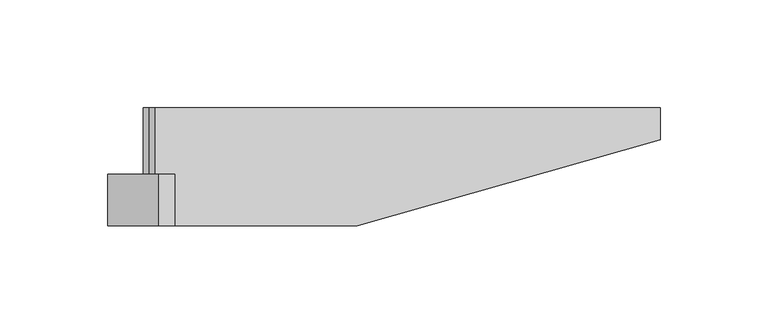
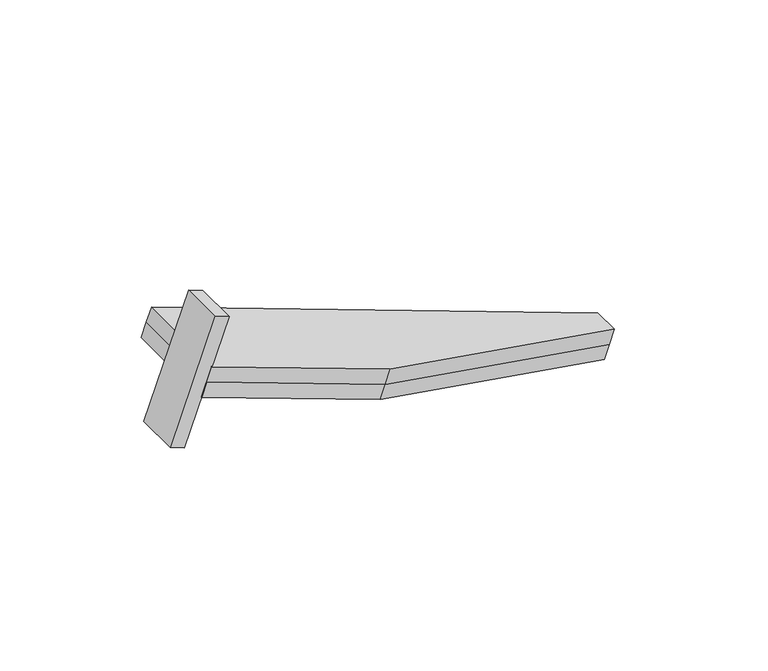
"""IFC4 building model written with IfcOpenShell, lengths in millimetres: proxy geometry, MK-TA24-ZAFE-VA1-WD."""

import ifcopenshell
import ifcopenshell.guid

model = None  # the IFC model being written
_history = None  # IfcOwnerHistory: only IFC2X3 demands one
_inside = {}  # id of a spatial element -> (the spatial element, [elements in it])
_under = {}  # id of a project, library or spatial element -> (it, [spatial elements below it])
_declared = {}  # id of a project -> (the project, [libraries it declares])
_typed = {}  # id of a type object -> (the type object, [elements of that type])
_made_of = {}  # id of a material, layer set ... -> (it, [elements and type objects made of it])


def new_model(schema):
    """Start an empty IFC model of exactly this schema.

    Asked for "IFC4X3", IfcOpenShell would pick the latest addendum, in which some entities
    have other attributes; the version numbers below select the first issue.
    IFC2X3 requires an IfcOwnerHistory on every rooted entity: one is made here for all.
    """
    global model, _history
    if schema == "IFC4X3":
        model = ifcopenshell.file(schema_version=(4, 3, 0, 0))
    else:
        model = ifcopenshell.file(schema=schema)
    _inside.clear()
    _under.clear()
    _declared.clear()
    _typed.clear()
    _made_of.clear()
    _history = None
    if model.schema == "IFC2X3":
        org = make("IfcOrganization", Name="unknown")
        user = make(
            "IfcPersonAndOrganization",
            ThePerson=make("IfcPerson", FamilyName="unknown"),
            TheOrganization=org,
        )
        app = make(
            "IfcApplication",
            ApplicationDeveloper=org,
            Version="unknown",
            ApplicationFullName="unknown",
            ApplicationIdentifier="unknown",
        )
        _history = make(
            "IfcOwnerHistory",
            OwningUser=user,
            OwningApplication=app,
            ChangeAction="ADDED",
            CreationDate=0,
        )
    return model


def make(cls, **values):
    """One entity of the class cls with the attributes given. An attribute that is None is left unset."""
    return model.create_entity(
        cls, **{name: value for name, value in values.items() if value is not None}
    )


def rooted(cls, **values):
    """An entity with a GlobalId (a new one), such as an element, a storey or a relation."""
    return make(cls, GlobalId=ifcopenshell.guid.new(), OwnerHistory=_history, **values)


def si_unit(unit_type, name, prefix=None):
    """IfcSIUnit, for example si_unit("LENGTHUNIT", "METRE", prefix="MILLI")."""
    return make("IfcSIUnit", UnitType=unit_type, Prefix=prefix, Name=name)


def assignment(units):
    """IfcUnitAssignment: the units of a project."""
    return None if units is None else make("IfcUnitAssignment", Units=units)


def point(xyz):
    """IfcCartesianPoint."""
    return None if xyz is None else make("IfcCartesianPoint", Coordinates=xyz)


def direction(xyz):
    """IfcDirection."""
    return None if xyz is None else make("IfcDirection", DirectionRatios=xyz)


def frame(location, z_axis=None, x_axis=None):
    """IfcAxis2Placement3D, a coordinate frame: its origin and axes. An axis left out is left unset."""
    return make(
        "IfcAxis2Placement3D",
        Location=point(location),
        Axis=direction(z_axis),
        RefDirection=direction(x_axis),
    )


def origin():
    """The frame at (0, 0, 0) with its axes left unset."""
    return frame((0.0, 0.0, 0.0))


def place(relative_to, where):
    """IfcLocalPlacement: puts the frame where relative to a parent placement (None: the world)."""
    return make(
        "IfcLocalPlacement", PlacementRelTo=relative_to, RelativePlacement=where
    )


def context(
    kind, dimensions, precision=None, world=None, true_north=None, identifier=None
):
    """IfcGeometricRepresentationContext, for example the 3D "Model" context."""
    return make(
        "IfcGeometricRepresentationContext",
        ContextIdentifier=identifier,
        ContextType=kind,
        CoordinateSpaceDimension=dimensions,
        Precision=precision,
        WorldCoordinateSystem=world,
        TrueNorth=true_north,
    )


def project(units=None, contexts=None):
    """IfcProject with its units and contexts."""
    return rooted(
        "IfcProject",
        Name="project",
        RepresentationContexts=contexts,
        UnitsInContext=assignment(units),
    )


def spatial(cls, under=None, at=None, **own):
    """A site, building, storey or space (cls), placed at a placement, below another one or the project."""
    s = rooted(cls, ObjectPlacement=at, **own)
    if under is not None:
        _under.setdefault(under.id(), (under, []))[1].append(s)
    return s


def polyline(points):
    """IfcPolyline through the points."""
    return make("IfcPolyline", Points=[point(p) for p in points])


def outline(outer, holes=None, kind="AREA"):
    """IfcArbitraryClosedProfileDef: a profile drawn as a closed curve; with holes, ...WithVoids."""
    if holes is None:
        return make("IfcArbitraryClosedProfileDef", ProfileType=kind, OuterCurve=outer)
    return make(
        "IfcArbitraryProfileDefWithVoids",
        ProfileType=kind,
        OuterCurve=outer,
        InnerCurves=holes,
    )


def extrude(swept, where, along, depth):
    """IfcExtrudedAreaSolid: the profile swept, set in the frame where, extruded along a direction by depth."""
    return make(
        "IfcExtrudedAreaSolid",
        SweptArea=swept,
        Position=where,
        ExtrudedDirection=direction(along),
        Depth=depth,
    )


def shape(context_of_items, identifier, shape_type, items):
    """IfcShapeRepresentation: the items that make up one representation, for example the "Body"."""
    return make(
        "IfcShapeRepresentation",
        ContextOfItems=context_of_items,
        RepresentationIdentifier=identifier,
        RepresentationType=shape_type,
        Items=items,
    )


def source(mapping_origin, context_of_items, identifier, shape_type, items):
    """IfcRepresentationMap: a shape defined once, which mapped items show again and again."""
    return make(
        "IfcRepresentationMap",
        MappingOrigin=mapping_origin,
        MappedRepresentation=shape(context_of_items, identifier, shape_type, items),
    )


def transform(
    local_origin,
    x_axis=None,
    y_axis=None,
    z_axis=None,
    scale=None,
    scale2=None,
    scale3=None,
    uniform=True,
):
    """IfcCartesianTransformationOperator3D, or its non-uniform kind. x_axis, y_axis, z_axis: its Axis1, 2, 3."""
    if uniform:
        return make(
            "IfcCartesianTransformationOperator3D",
            Axis1=direction(x_axis),
            Axis2=direction(y_axis),
            LocalOrigin=point(local_origin),
            Scale=scale,
            Axis3=direction(z_axis),
        )
    return make(
        "IfcCartesianTransformationOperator3DnonUniform",
        Axis1=direction(x_axis),
        Axis2=direction(y_axis),
        LocalOrigin=point(local_origin),
        Scale=scale,
        Axis3=direction(z_axis),
        Scale2=scale2,
        Scale3=scale3,
    )


def mapped(mapping_source, mapping_target):
    """IfcMappedItem: shows the shape of a source again, moved by a transform."""
    return make(
        "IfcMappedItem", MappingSource=mapping_source, MappingTarget=mapping_target
    )


def made_of(thing, what):
    """Note that an element or type object is made of a material, layer set ...; save() writes the relation."""
    if what is not None:
        _made_of.setdefault(what.id(), (what, []))[1].append(thing)
    return thing


def element(
    cls,
    number,
    at=None,
    inside=None,
    cuts=None,
    type_object=None,
    material=None,
    context=None,
    identifier="Body",
    shape_type=None,
    held_by="IfcProductDefinitionShape",
    body=None,
    shapes=None,
    **own,
):
    """One element of the class cls, such as IfcWall. Its Tag is "e" and its number.

    at: its placement. inside: the storey or other place that contains it. cuts: it is an
    opening in that element (IfcRelVoidsElement). A single representation is given by context,
    identifier, shape_type and body (its items); several are given by shapes. held_by: the class
    of the entity that holds the representations. save() writes the other relations.
    """
    e = rooted(cls, Tag="e%d" % number, ObjectPlacement=at, **own)
    if body is not None:
        shapes = [shape(context, identifier, shape_type, body)]
    if shapes is not None:
        e.Representation = make(held_by, Representations=shapes)
    if inside is not None:
        _inside.setdefault(inside.id(), (inside, []))[1].append(e)
    if cuts is not None:
        rooted(
            "IfcRelVoidsElement", RelatingBuildingElement=cuts, RelatedOpeningElement=e
        )
    if type_object is not None:
        _typed.setdefault(type_object.id(), (type_object, []))[1].append(e)
    return made_of(e, material)


def aggregate(whole, parts):
    """IfcRelAggregates: a whole, such as a stair, and the parts it consists of."""
    return rooted("IfcRelAggregates", RelatingObject=whole, RelatedObjects=parts)


def save(model, path):
    """Write the relations noted so far, then the file.

    IfcRelAggregates (storeys below a building ...), IfcRelContainedInSpatialStructure (elements
    in a storey), IfcRelDefinesByType, IfcRelAssociatesMaterial and IfcRelDeclares: one each for
    every whole, place, type object, material and project.
    """
    for whole, parts in _under.values():
        aggregate(whole, parts)
    for where, things in _inside.values():
        rooted(
            "IfcRelContainedInSpatialStructure",
            RelatedElements=things,
            RelatingStructure=where,
        )
    for kind, things in _typed.values():
        rooted("IfcRelDefinesByType", RelatedObjects=things, RelatingType=kind)
    for what, things in _made_of.values():
        rooted("IfcRelAssociatesMaterial", RelatedObjects=things, RelatingMaterial=what)
    for by, libraries in _declared.values():
        rooted("IfcRelDeclares", RelatingContext=by, RelatedDefinitions=libraries)
    model.write(path)


def generic_models_d035bedb(model_context):
    return source(origin(), model_context, "Body", "SweptSolid", [
        extrude(outline(polyline([(129.9760168, 25.0919917), (129.9760168, 10.0919917), (-20.0239831, -29.9080083), (-120.0239832, -29.9080083), (-120.0239832, 25.0919917), (129.9760168, 25.0919917)])), frame((-263.4582314, 4.9080083, -15.5489949), z_axis=(0.34202014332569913, 0.0, 0.9396926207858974), x_axis=(0.9396926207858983, 0.0, -0.3420201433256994)), (0.0, 0.0, 1.0), 8.0),
        extrude(outline(polyline([(-120.0239831, -29.9080083), (-120.0239831, 25.0919917), (129.9760169, 25.0919917), (129.9760169, 10.0919917), (-20.0239831, -29.9080083), (-120.0239831, -29.9080083)])), frame((-266.1943926, 4.9080083, -23.0665359), z_axis=(0.34202014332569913, 0.0, 0.9396926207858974), x_axis=(0.9396926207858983, 0.0, -0.3420201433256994)), (0.0, 0.0, 1.0), 8.0),
        extrude(outline(polyline([(0.0, -24.0), (0.0, 0.0), (8.0, 0.0), (8.0, -24.0), (0.0, -24.0)])), frame((-395.5611186, -1.0, -4.1816093), z_axis=(0.34202014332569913, 0.0, 0.9396926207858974), x_axis=(0.9396926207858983, 0.0, -0.3420201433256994)), (0.0, 0.0, 1.0), 69.0),
    ])


if __name__ == "__main__":
    model = new_model("IFC4")
    model_context = context("Model", 3, world=origin())
    ifc_project = project(units=[si_unit("LENGTHUNIT", "METRE", prefix="MILLI")], contexts=[model_context])
    site = spatial("IfcSite", under=ifc_project)
    building = spatial("IfcBuilding", under=site)
    placement = place(None, origin())
    generic_models_shape = generic_models_d035bedb(model_context)
    element("IfcBuildingElementProxy", 1, Name="MK-TA24-ZAFE-VA1-WD", ObjectType="MK-TA24-ZAFE-VA1-WD", at=placement, inside=building, context=model_context, shape_type="MappedRepresentation", body=[
        mapped(generic_models_shape, transform((0.0, 0.0, 0.0), x_axis=(1.0, 0.0, 0.0), y_axis=(0.0, 1.0, 0.0), z_axis=(0.0, 0.0, 1.0))),
    ])
    save(model, "model.ifc")
